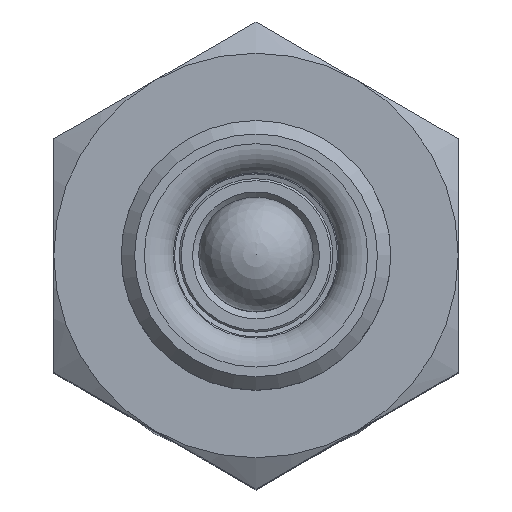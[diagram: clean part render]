
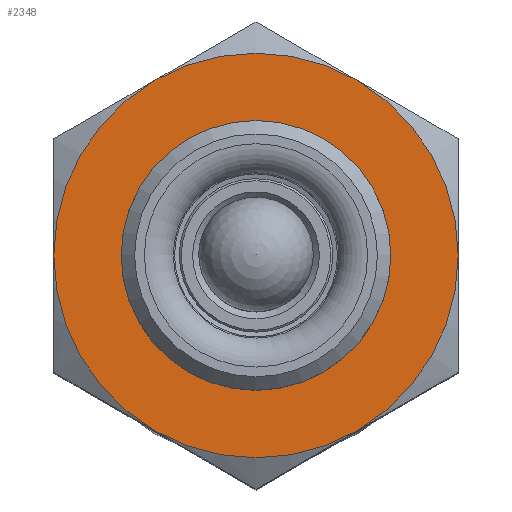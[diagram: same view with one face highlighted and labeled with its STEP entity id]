
A CAD part, top view. The second image highlights one B-rep face of the part: STEP entity #2348.
In plain terms, the highlighted planar face has unit normal (0, 0, 1) as drawn and (1, 0, 0) by its records, which use the part's own axes.
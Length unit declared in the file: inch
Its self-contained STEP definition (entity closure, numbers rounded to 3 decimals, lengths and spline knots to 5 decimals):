
#234=FACE_BOUND('',#568,.T.);
#277=PLANE('',#2593);
#405=FACE_OUTER_BOUND('',#567,.T.);
#567=EDGE_LOOP('',(#1706,#1707,#1708,#1709,#1710,#1711));
#568=EDGE_LOOP('',(#1712));
#1010=CIRCLE('',#2592,0.25006);
#1011=CIRCLE('',#2594,0.375);
#1012=CIRCLE('',#2595,0.375);
#1013=CIRCLE('',#2596,0.375);
#1014=CIRCLE('',#2597,0.375);
#1015=CIRCLE('',#2598,0.375);
#1016=CIRCLE('',#2599,0.375);
#1175=VERTEX_POINT('',#3717);
#1176=VERTEX_POINT('',#3721);
#1177=VERTEX_POINT('',#3722);
#1178=VERTEX_POINT('',#3724);
#1179=VERTEX_POINT('',#3726);
#1180=VERTEX_POINT('',#3728);
#1181=VERTEX_POINT('',#3730);
#1382=EDGE_CURVE('',#1175,#1175,#1010,.T.);
#1384=EDGE_CURVE('',#1176,#1177,#1011,.T.);
#1385=EDGE_CURVE('',#1177,#1178,#1012,.T.);
#1386=EDGE_CURVE('',#1178,#1179,#1013,.T.);
#1387=EDGE_CURVE('',#1179,#1180,#1014,.T.);
#1388=EDGE_CURVE('',#1180,#1181,#1015,.T.);
#1389=EDGE_CURVE('',#1181,#1176,#1016,.T.);
#1706=ORIENTED_EDGE('',*,*,#1384,.T.);
#1707=ORIENTED_EDGE('',*,*,#1385,.T.);
#1708=ORIENTED_EDGE('',*,*,#1386,.T.);
#1709=ORIENTED_EDGE('',*,*,#1387,.T.);
#1710=ORIENTED_EDGE('',*,*,#1388,.T.);
#1711=ORIENTED_EDGE('',*,*,#1389,.T.);
#1712=ORIENTED_EDGE('',*,*,#1382,.F.);
#2348=ADVANCED_FACE('',(#405,#234),#277,.T.);
#2592=AXIS2_PLACEMENT_3D('',#3718,#2942,#2943);
#2593=AXIS2_PLACEMENT_3D('',#3720,#2945,#2946);
#2594=AXIS2_PLACEMENT_3D('',#3723,#2947,#2948);
#2595=AXIS2_PLACEMENT_3D('',#3725,#2949,#2950);
#2596=AXIS2_PLACEMENT_3D('',#3727,#2951,#2952);
#2597=AXIS2_PLACEMENT_3D('',#3729,#2953,#2954);
#2598=AXIS2_PLACEMENT_3D('',#3731,#2955,#2956);
#2599=AXIS2_PLACEMENT_3D('',#3732,#2957,#2958);
#2942=DIRECTION('center_axis',(1.,0.,0.));
#2943=DIRECTION('ref_axis',(0.,0.,1.));
#2945=DIRECTION('center_axis',(1.,0.,0.));
#2946=DIRECTION('ref_axis',(0.,0.,-1.));
#2947=DIRECTION('center_axis',(1.,0.,0.));
#2948=DIRECTION('ref_axis',(0.,1.,0.));
#2949=DIRECTION('center_axis',(1.,0.,0.));
#2950=DIRECTION('ref_axis',(0.,1.,0.));
#2951=DIRECTION('center_axis',(1.,0.,0.));
#2952=DIRECTION('ref_axis',(0.,1.,0.));
#2953=DIRECTION('center_axis',(1.,0.,0.));
#2954=DIRECTION('ref_axis',(0.,1.,0.));
#2955=DIRECTION('center_axis',(1.,0.,0.));
#2956=DIRECTION('ref_axis',(0.,1.,0.));
#2957=DIRECTION('center_axis',(1.,0.,0.));
#2958=DIRECTION('ref_axis',(0.,1.,0.));
#3717=CARTESIAN_POINT('',(0.448,0.,-0.25006));
#3718=CARTESIAN_POINT('Origin',(0.448,0.,0.));
#3720=CARTESIAN_POINT('Origin',(0.448,0.,0.));
#3721=CARTESIAN_POINT('',(0.448,-0.32476,-0.1875));
#3722=CARTESIAN_POINT('',(0.448,0.,-0.375));
#3723=CARTESIAN_POINT('Origin',(0.448,0.,0.));
#3724=CARTESIAN_POINT('',(0.448,0.32476,-0.1875));
#3725=CARTESIAN_POINT('Origin',(0.448,0.,0.));
#3726=CARTESIAN_POINT('',(0.448,0.32476,0.1875));
#3727=CARTESIAN_POINT('Origin',(0.448,0.,0.));
#3728=CARTESIAN_POINT('',(0.448,0.,0.375));
#3729=CARTESIAN_POINT('Origin',(0.448,0.,0.));
#3730=CARTESIAN_POINT('',(0.448,-0.32476,0.1875));
#3731=CARTESIAN_POINT('Origin',(0.448,0.,0.));
#3732=CARTESIAN_POINT('Origin',(0.448,0.,0.));
